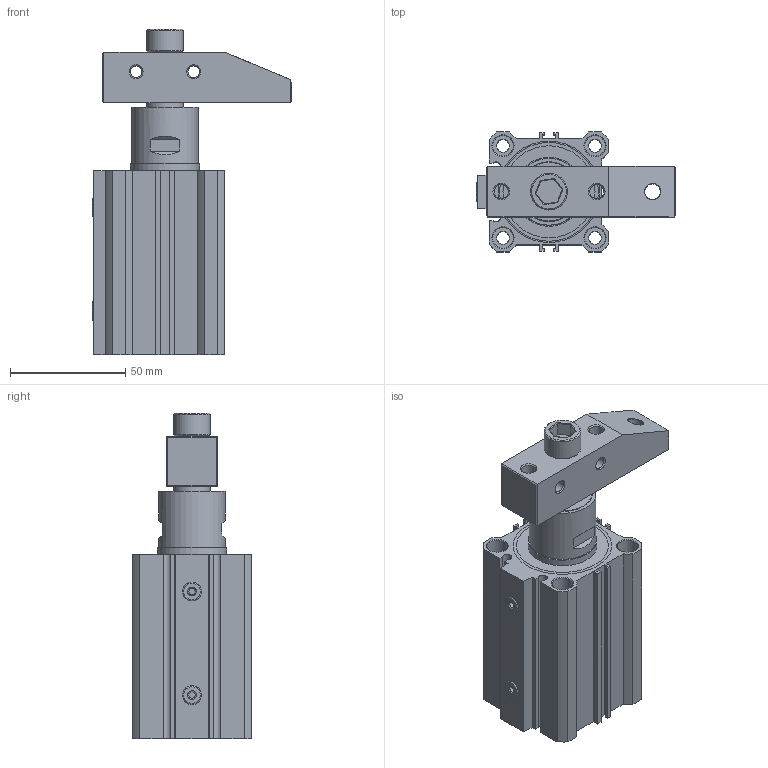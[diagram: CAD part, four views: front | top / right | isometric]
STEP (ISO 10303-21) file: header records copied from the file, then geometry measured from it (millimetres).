
FILE_DESCRIPTION(/* description */ ('STEP AP203'),/* implementation_level */ '2;1');
FILE_NAME(/* name */ 'E:\SERWER_ZAPAS\MODELE brakujace\PNEUMATIC\PB(STEP)\pbs-4感应转角缸\PBS-40R_ZAMKNIETY.stp',/* time_stamp */ '2019-02-01T15:26:57+01:00',/* author */ ('Admin'),/* organization */ ('Microsoft'),/* preprocessor_version */ 'ST-DEVELOPER v17.2',/* originating_system */ 'Autodesk Inventor 2019',/* authorisation */ '');
FILE_SCHEMA (('AUTOMOTIVE_DESIGN { 1 0 10303 214 3 1 1 }'));
Length unit declared in the file: millimetre
Products named in the file (11): PBS-40R_ZAMKNIETY; Ç°¸Ç_Ä¬ÈÏ; µæ¿é_Ä¬ÈÏ; Ñ¹±Û_Ä¬ÈÏ; du_Ä¬ÈÏ; m10_Ä¬ÈÏ; ±¾Ìå_Ä¬ÈÏ; »îÈû_Ä¬ÈÏ; s¸Ë_Ä¬ÈÏ; »îÈû¸Ë_Ä¬ÈÏ; ºó¸Ç_Ä¬ÈÏ
Assembly tree (11 placements, depth 2):
  PBS-40R_ZAMKNIETY
    Ç°¸Ç_Ä¬ÈÏ
    du_Ä¬ÈÏ  x2
    µæ¿é_Ä¬ÈÏ
    Ñ¹±Û_Ä¬ÈÏ
    m10_Ä¬ÈÏ
    ±¾Ìå_Ä¬ÈÏ
    »îÈû_Ä¬ÈÏ
    s¸Ë_Ä¬ÈÏ
    »îÈû¸Ë_Ä¬ÈÏ
    ºó¸Ç_Ä¬ÈÏ
Bounding box: 86.45 x 52 x 141.5 mm (x, y, z)
Volume: 202251.7 mm3; surface area: 94035.7 mm2
Topology: 11 solids, 11 shells, 465 faces, 1318 edges, 921 vertices
Faces by surface type: plane 153, cone 141, cylinder 121, torus 44, bspline 6
Full cylindrical faces by diameter (mm): 2 x3, 2.808 x2, 4 x5, 5 x2, 5.5 x4, 6.2 x2, 6.8 x2, 8.2 x4, 9 x8, 10 x2, 10.5 x1, 12 x4, 16 x4, 16.1 x3, 16.5 x1, 18 x10, 19 x1, 20.3 x1, 22 x2, 24 x2, 26 x2, 29 x1, 30 x1, 32 x1, 36 x1, 36.7 x1, 37 x1, 40 x11, 44 x15
Entity records: 16834 total; most frequent: CARTESIAN_POINT 3702, DIRECTION 2923, ORIENTED_EDGE 2592, EDGE_CURVE 1296, AXIS2_PLACEMENT_3D 1224, VERTEX_POINT 907, CIRCLE 740, EDGE_LOOP 543
